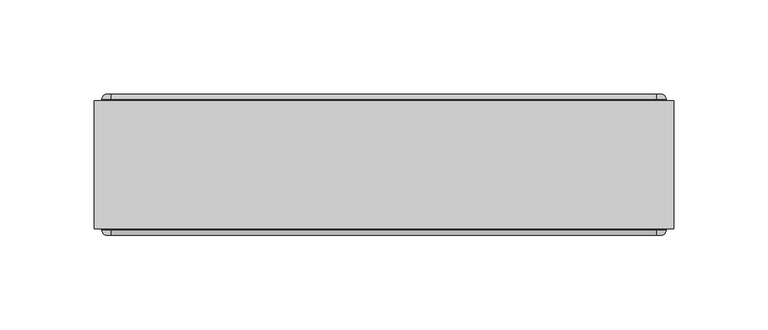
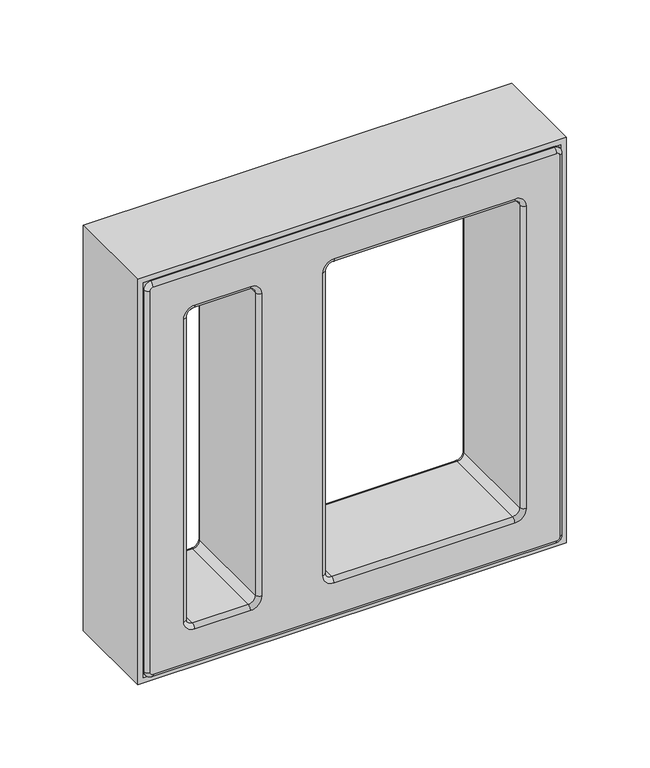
"""IFC4 building model written with IfcOpenShell, lengths in millimetres: proxy geometry, PORTOBELLO - ELEMENTO ASSIM CINZA 30X30 (COBOGO) : ASSIM CINZA."""

from ifc_helpers import new_model, si_unit, point, frame, origin, place, context, project, spatial, polyline, circle_curve, ellipse_curve, trimmed, outline, extrude, source, transform, mapped, element, save
from ifc_brep_helpers import plane_surface, cylinder_surface, revolved_surface, advanced_brep


def generic_models_a87dd402(model_context):
    return source(origin(), model_context, "Body", "SolidModel", [
        advanced_brep(
        [(145.0, 37.5, 7.0), (-145.0, 37.5, 7.0), (-147.0, 37.5, 9.0), (-147.0, 37.5, 299.0), (-145.0, 37.5, 301.0), (145.0, 37.5, 301.0), (147.0, 37.5, 299.0), (147.0, 37.5, 9.0), (-67.0, 37.5, 39.0), (-67.0, 37.5, 269.0), (-75.0, 37.5, 277.0), (-115.0, 37.5, 277.0), (-123.0, 37.5, 269.0), (-123.0, 37.5, 39.0), (-115.0, 37.5, 31.0), (-75.0, 37.5, 31.0), (123.0, 37.5, 39.0), (123.0, 37.5, 269.0), (115.0, 37.5, 277.0), (-15.0, 37.5, 277.0), (-23.0, 37.5, 269.0), (-23.0, 37.5, 39.0), (-15.0, 37.5, 31.0), (115.0, 37.5, 31.0), (147.0, -37.5, 9.0), (147.0, -37.5, 299.0), (145.0, -37.5, 301.0), (-145.0, -37.5, 301.0), (-147.0, -37.5, 299.0), (-147.0, -37.5, 9.0), (-145.0, -37.5, 7.0), (145.0, -37.5, 7.0), (-75.0, -37.5, 31.0), (-115.0, -37.5, 31.0), (-123.0, -37.5, 39.0), (-123.0, -37.5, 269.0), (-115.0, -37.5, 277.0), (-75.0, -37.5, 277.0), (-67.0, -37.5, 269.0), (-67.0, -37.5, 39.0), (115.0, -37.5, 31.0), (-15.0, -37.5, 31.0), (-23.0, -37.5, 39.0), (-23.0, -37.5, 269.0), (-15.0, -37.5, 277.0), (115.0, -37.5, 277.0), (123.0, -37.5, 269.0), (123.0, -37.5, 39.0), (145.0, 34.5, 4.0), (150.0, 34.5, 9.0), (150.0, -34.5, 9.0), (145.0, -34.5, 4.0), (150.0, 34.5, 299.0), (150.0, -34.5, 299.0), (145.0, 34.5, 304.0), (145.0, -34.5, 304.0), (-145.0, 34.5, 304.0), (-145.0, -34.5, 304.0), (-150.0, 34.5, 299.0), (-150.0, -34.5, 299.0), (-150.0, 34.5, 9.0), (-150.0, -34.5, 9.0), (-145.0, 34.5, 4.0), (-145.0, -34.5, 4.0), (120.0, 34.5, 269.0), (120.0, 34.5, 39.0), (120.0, -34.5, 39.0), (120.0, -34.5, 269.0), (115.0, 34.5, 34.0), (115.0, -34.5, 34.0), (-15.0, 34.5, 34.0), (-15.0, -34.5, 34.0), (-20.0, 34.5, 39.0), (-20.0, -34.5, 39.0), (-20.0, 34.5, 269.0), (-20.0, -34.5, 269.0), (-15.0, 34.5, 274.0), (-15.0, -34.5, 274.0), (115.0, 34.5, 274.0), (115.0, -34.5, 274.0), (-120.0, 34.5, 39.0), (-120.0, 34.5, 269.0), (-120.0, -34.5, 269.0), (-120.0, -34.5, 39.0), (-115.0, 34.5, 274.0), (-115.0, -34.5, 274.0), (-75.0, 34.5, 274.0), (-75.0, -34.5, 274.0), (-70.0, 34.5, 269.0), (-70.0, -34.5, 269.0), (-70.0, 34.5, 39.0), (-70.0, -34.5, 39.0), (-75.0, 34.5, 34.0), (-75.0, -34.5, 34.0), (-115.0, 34.5, 34.0), (-115.0, -34.5, 34.0)],
        [
            (0, 1),
            (1, 2, circle_curve(frame((-145.0, 37.5, 9.0), z_axis=(0.0, 1.0, 0.0), x_axis=(-1.0, 0.0, 0.0)), 2.0)),
            (2, 3),
            (3, 4, circle_curve(frame((-145.0, 37.5, 299.0), z_axis=(0.0, 1.0, 0.0), x_axis=(0.0, 0.0, 1.0)), 2.0)),
            (4, 5),
            (5, 6, circle_curve(frame((145.0, 37.5, 299.0), z_axis=(0.0, 1.0, 0.0), x_axis=(1.0, 0.0, 0.0)), 2.0)),
            (6, 7),
            (7, 0, circle_curve(frame((145.0, 37.5, 9.0), z_axis=(0.0, 1.0, 0.0), x_axis=(0.0, 0.0, -1.0)), 2.0)),
            (8, 9),
            (9, 10, circle_curve(frame((-75.0, 37.5, 269.0), z_axis=(0.0, -1.0, 0.0), x_axis=(0.0, 0.0, 1.0)), 8.0)),
            (10, 11),
            (11, 12, circle_curve(frame((-115.0, 37.5, 269.0), z_axis=(0.0, -1.0, 0.0), x_axis=(-1.0, 0.0, 0.0)), 8.0)),
            (12, 13),
            (13, 14, circle_curve(frame((-115.0, 37.5, 39.0), z_axis=(0.0, -1.0, 0.0), x_axis=(0.0, 0.0, -1.0)), 8.0)),
            (14, 15),
            (15, 8, circle_curve(frame((-75.0, 37.5, 39.0), z_axis=(0.0, -1.0, 0.0), x_axis=(1.0, 0.0, 0.0)), 8.0)),
            (16, 17),
            (17, 18, circle_curve(frame((115.0, 37.5, 269.0), z_axis=(0.0, -1.0, 0.0), x_axis=(0.0, 0.0, 1.0)), 8.0)),
            (18, 19),
            (19, 20, circle_curve(frame((-15.0, 37.5, 269.0), z_axis=(0.0, -1.0, 0.0), x_axis=(-1.0, 0.0, 0.0)), 8.0)),
            (20, 21),
            (21, 22, circle_curve(frame((-15.0, 37.5, 39.0), z_axis=(0.0, -1.0, 0.0), x_axis=(0.0, 0.0, -1.0)), 8.0)),
            (22, 23),
            (23, 16, circle_curve(frame((115.0, 37.5, 39.0), z_axis=(0.0, -1.0, 0.0), x_axis=(1.0, 0.0, 0.0)), 8.0)),
            (24, 25),
            (25, 26, circle_curve(frame((145.0, -37.5, 299.0), z_axis=(0.0, -1.0, 0.0), x_axis=(1.0, 0.0, 0.0)), 2.0)),
            (26, 27),
            (27, 28, circle_curve(frame((-145.0, -37.5, 299.0), z_axis=(0.0, -1.0, 0.0), x_axis=(0.0, 0.0, 1.0)), 2.0)),
            (28, 29),
            (29, 30, circle_curve(frame((-145.0, -37.5, 9.0), z_axis=(0.0, -1.0, 0.0), x_axis=(-1.0, 0.0, 0.0)), 2.0)),
            (30, 31),
            (31, 24, circle_curve(frame((145.0, -37.5, 9.0), z_axis=(0.0, -1.0, 0.0), x_axis=(0.0, 0.0, -1.0)), 2.0)),
            (32, 33),
            (33, 34, circle_curve(frame((-115.0, -37.5, 39.0), z_axis=(0.0, 1.0, 0.0), x_axis=(0.0, 0.0, -1.0)), 8.0)),
            (34, 35),
            (35, 36, circle_curve(frame((-115.0, -37.5, 269.0), z_axis=(0.0, 1.0, 0.0), x_axis=(-1.0, 0.0, 0.0)), 8.0)),
            (36, 37),
            (37, 38, circle_curve(frame((-75.0, -37.5, 269.0), z_axis=(0.0, 1.0, 0.0), x_axis=(0.0, 0.0, 1.0)), 8.0)),
            (38, 39),
            (39, 32, circle_curve(frame((-75.0, -37.5, 39.0), z_axis=(0.0, 1.0, 0.0), x_axis=(1.0, 0.0, 0.0)), 8.0)),
            (40, 41),
            (41, 42, circle_curve(frame((-15.0, -37.5, 39.0), z_axis=(0.0, 1.0, 0.0), x_axis=(0.0, 0.0, -1.0)), 8.0)),
            (42, 43),
            (43, 44, circle_curve(frame((-15.0, -37.5, 269.0), z_axis=(0.0, 1.0, 0.0), x_axis=(-1.0, 0.0, 0.0)), 8.0)),
            (44, 45),
            (45, 46, circle_curve(frame((115.0, -37.5, 269.0), z_axis=(0.0, 1.0, 0.0), x_axis=(0.0, 0.0, 1.0)), 8.0)),
            (46, 47),
            (47, 40, circle_curve(frame((115.0, -37.5, 39.0), z_axis=(0.0, 1.0, 0.0), x_axis=(1.0, 0.0, 0.0)), 8.0)),
            (48, 49, circle_curve(frame((145.0, 34.5, 9.0), z_axis=(0.0, -1.0, 0.0), x_axis=(-1.0, 0.0, 0.0)), 5.0)),
            (49, 50),
            (50, 51, circle_curve(frame((145.0, -34.5, 9.0), z_axis=(0.0, 1.0, 0.0), x_axis=(-1.0, 0.0, 0.0)), 5.0)),
            (51, 48),
            (49, 52),
            (52, 53),
            (53, 50),
            (52, 54, circle_curve(frame((145.0, 34.5, 299.0), z_axis=(0.0, -1.0, 0.0), x_axis=(-1.0, 0.0, 0.0)), 5.0)),
            (54, 55),
            (55, 53, circle_curve(frame((145.0, -34.5, 299.0), z_axis=(0.0, 1.0, 0.0), x_axis=(-1.0, 0.0, 0.0)), 5.0)),
            (54, 56),
            (56, 57),
            (57, 55),
            (56, 58, circle_curve(frame((-145.0, 34.5, 299.0), z_axis=(0.0, -1.0, 0.0), x_axis=(-1.0, 0.0, 0.0)), 5.0)),
            (58, 59),
            (59, 57, circle_curve(frame((-145.0, -34.5, 299.0), z_axis=(0.0, 1.0, 0.0), x_axis=(-1.0, 0.0, 0.0)), 5.0)),
            (58, 60),
            (60, 61),
            (61, 59),
            (60, 62, circle_curve(frame((-145.0, 34.5, 9.0), z_axis=(0.0, -1.0, 0.0), x_axis=(-1.0, 0.0, 0.0)), 5.0)),
            (62, 63),
            (63, 61, circle_curve(frame((-145.0, -34.5, 9.0), z_axis=(0.0, 1.0, 0.0), x_axis=(-1.0, 0.0, 0.0)), 5.0)),
            (51, 63),
            (62, 48),
            (64, 65),
            (65, 66),
            (66, 67),
            (67, 64),
            (65, 68, circle_curve(frame((115.0, 34.5, 39.0), z_axis=(0.0, 1.0, 0.0), x_axis=(-1.0, 0.0, 0.0)), 5.0)),
            (68, 69),
            (69, 66, circle_curve(frame((115.0, -34.5, 39.0), z_axis=(0.0, -1.0, 0.0), x_axis=(-1.0, 0.0, 0.0)), 5.0)),
            (68, 70),
            (70, 71),
            (71, 69),
            (70, 72, circle_curve(frame((-15.0, 34.5, 39.0), z_axis=(0.0, 1.0, 0.0), x_axis=(-1.0, 0.0, 0.0)), 5.0)),
            (72, 73),
            (73, 71, circle_curve(frame((-15.0, -34.5, 39.0), z_axis=(0.0, -1.0, 0.0), x_axis=(-1.0, 0.0, 0.0)), 5.0)),
            (72, 74),
            (74, 75),
            (75, 73),
            (74, 76, circle_curve(frame((-15.0, 34.5, 269.0), z_axis=(0.0, 1.0, 0.0), x_axis=(-1.0, 0.0, 0.0)), 5.0)),
            (76, 77),
            (77, 75, circle_curve(frame((-15.0, -34.5, 269.0), z_axis=(0.0, -1.0, 0.0), x_axis=(-1.0, 0.0, 0.0)), 5.0)),
            (76, 78),
            (78, 79),
            (79, 77),
            (67, 79, circle_curve(frame((115.0, -34.5, 269.0), z_axis=(0.0, -1.0, 0.0), x_axis=(-1.0, 0.0, 0.0)), 5.0)),
            (78, 64, circle_curve(frame((115.0, 34.5, 269.0), z_axis=(0.0, 1.0, 0.0), x_axis=(-1.0, 0.0, 0.0)), 5.0)),
            (80, 81),
            (81, 82),
            (82, 83),
            (83, 80),
            (81, 84, circle_curve(frame((-115.0, 34.5, 269.0), z_axis=(0.0, 1.0, 0.0), x_axis=(-1.0, 0.0, 0.0)), 5.0)),
            (84, 85),
            (85, 82, circle_curve(frame((-115.0, -34.5, 269.0), z_axis=(0.0, -1.0, 0.0), x_axis=(-1.0, 0.0, 0.0)), 5.0)),
            (84, 86),
            (86, 87),
            (87, 85),
            (86, 88, circle_curve(frame((-75.0, 34.5, 269.0), z_axis=(0.0, 1.0, 0.0), x_axis=(-1.0, 0.0, 0.0)), 5.0)),
            (88, 89),
            (89, 87, circle_curve(frame((-75.0, -34.5, 269.0), z_axis=(0.0, -1.0, 0.0), x_axis=(-1.0, 0.0, 0.0)), 5.0)),
            (88, 90),
            (90, 91),
            (91, 89),
            (90, 92, circle_curve(frame((-75.0, 34.5, 39.0), z_axis=(0.0, 1.0, 0.0), x_axis=(-1.0, 0.0, 0.0)), 5.0)),
            (92, 93),
            (93, 91, circle_curve(frame((-75.0, -34.5, 39.0), z_axis=(0.0, -1.0, 0.0), x_axis=(-1.0, 0.0, 0.0)), 5.0)),
            (92, 94),
            (94, 95),
            (95, 93),
            (83, 95, circle_curve(frame((-115.0, -34.5, 39.0), z_axis=(0.0, -1.0, 0.0), x_axis=(-1.0, 0.0, 0.0)), 5.0)),
            (94, 80, circle_curve(frame((-115.0, 34.5, 39.0), z_axis=(0.0, 1.0, 0.0), x_axis=(-1.0, 0.0, 0.0)), 5.0)),
            (48, 0, circle_curve(frame((145.0, 34.5, 7.0), z_axis=(1.0, 0.0, 0.0), x_axis=(0.0, 1.0, 0.0)), 3.0)),
            (7, 49, circle_curve(frame((147.0, 34.5, 9.0), z_axis=(0.0, 0.0, -1.0), x_axis=(0.0, 1.0, 0.0)), 3.0)),
            (6, 52, circle_curve(frame((147.0, 34.5, 299.0), z_axis=(0.0, 0.0, -1.0), x_axis=(0.0, 1.0, 0.0)), 3.0)),
            (5, 54, circle_curve(frame((145.0, 34.5, 301.0), z_axis=(1.0, 0.0, 0.0), x_axis=(0.0, 1.0, 0.0)), 3.0)),
            (4, 56, circle_curve(frame((-145.0, 34.5, 301.0), z_axis=(1.0, 0.0, 0.0), x_axis=(0.0, 1.0, 0.0)), 3.0)),
            (3, 58, circle_curve(frame((-147.0, 34.5, 299.0), z_axis=(0.0, 0.0, 1.0), x_axis=(0.0, 1.0, 0.0)), 3.0)),
            (2, 60, circle_curve(frame((-147.0, 34.5, 9.0), z_axis=(0.0, 0.0, 1.0), x_axis=(0.0, 1.0, 0.0)), 3.0)),
            (1, 62, circle_curve(frame((-145.0, 34.5, 7.0), z_axis=(-1.0, 0.0, 0.0), x_axis=(0.0, 1.0, 0.0)), 3.0)),
            (31, 51, circle_curve(frame((145.0, -34.5, 7.0), z_axis=(1.0, 0.0, 0.0), x_axis=(0.0, 1.0, 0.0)), 3.0)),
            (50, 24, circle_curve(frame((147.0, -34.5, 9.0), z_axis=(0.0, 0.0, -1.0), x_axis=(0.0, 1.0, 0.0)), 3.0)),
            (53, 25, circle_curve(frame((147.0, -34.5, 299.0), z_axis=(0.0, 0.0, -1.0), x_axis=(0.0, 1.0, 0.0)), 3.0)),
            (55, 26, circle_curve(frame((145.0, -34.5, 301.0), z_axis=(1.0, 0.0, 0.0), x_axis=(0.0, 1.0, 0.0)), 3.0)),
            (57, 27, circle_curve(frame((-145.0, -34.5, 301.0), z_axis=(1.0, 0.0, 0.0), x_axis=(0.0, 1.0, 0.0)), 3.0)),
            (59, 28, circle_curve(frame((-147.0, -34.5, 299.0), z_axis=(0.0, 0.0, 1.0), x_axis=(0.0, 1.0, 0.0)), 3.0)),
            (61, 29, circle_curve(frame((-147.0, -34.5, 9.0), z_axis=(0.0, 0.0, 1.0), x_axis=(0.0, 1.0, 0.0)), 3.0)),
            (63, 30, circle_curve(frame((-145.0, -34.5, 7.0), z_axis=(-1.0, 0.0, 0.0), x_axis=(0.0, 1.0, 0.0)), 3.0)),
            (90, 8, circle_curve(frame((-67.0, 34.5, 39.0), z_axis=(0.0, 0.0, -1.0), x_axis=(-1.0, 0.0, 0.0)), 3.0)),
            (15, 92, circle_curve(frame((-75.0, 34.5, 31.0), z_axis=(1.0, 0.0, 0.0), x_axis=(0.0, 0.0, 1.0)), 3.0)),
            (39, 91, circle_curve(frame((-67.0, -34.5, 39.0), z_axis=(0.0, 0.0, -1.0), x_axis=(-1.0, 0.0, 0.0)), 3.0)),
            (93, 32, circle_curve(frame((-75.0, -34.5, 31.0), z_axis=(1.0, 0.0, 0.0), x_axis=(0.0, 0.0, 1.0)), 3.0)),
            (14, 94, circle_curve(frame((-115.0, 34.5, 31.0), z_axis=(1.0, 0.0, 0.0), x_axis=(0.0, 0.0, 1.0)), 3.0)),
            (95, 33, circle_curve(frame((-115.0, -34.5, 31.0), z_axis=(1.0, 0.0, 0.0), x_axis=(0.0, 0.0, 1.0)), 3.0)),
            (13, 80, circle_curve(frame((-123.0, 34.5, 39.0), z_axis=(0.0, 0.0, -1.0), x_axis=(1.0, 0.0, 0.0)), 3.0)),
            (83, 34, circle_curve(frame((-123.0, -34.5, 39.0), z_axis=(0.0, 0.0, -1.0), x_axis=(1.0, 0.0, 0.0)), 3.0)),
            (12, 81, circle_curve(frame((-123.0, 34.5, 269.0), z_axis=(0.0, 0.0, -1.0), x_axis=(1.0, 0.0, 0.0)), 3.0)),
            (82, 35, circle_curve(frame((-123.0, -34.5, 269.0), z_axis=(0.0, 0.0, -1.0), x_axis=(1.0, 0.0, 0.0)), 3.0)),
            (11, 84, circle_curve(frame((-115.0, 34.5, 277.0), z_axis=(-1.0, 0.0, 0.0), x_axis=(0.0, 0.0, -1.0)), 3.0)),
            (85, 36, circle_curve(frame((-115.0, -34.5, 277.0), z_axis=(-1.0, 0.0, 0.0), x_axis=(0.0, 0.0, -1.0)), 3.0)),
            (10, 86, circle_curve(frame((-75.0, 34.5, 277.0), z_axis=(-1.0, 0.0, 0.0), x_axis=(0.0, 0.0, -1.0)), 3.0)),
            (87, 37, circle_curve(frame((-75.0, -34.5, 277.0), z_axis=(-1.0, 0.0, 0.0), x_axis=(0.0, 0.0, -1.0)), 3.0)),
            (9, 88, circle_curve(frame((-67.0, 34.5, 269.0), z_axis=(0.0, 0.0, 1.0), x_axis=(-1.0, 0.0, 0.0)), 3.0)),
            (89, 38, circle_curve(frame((-67.0, -34.5, 269.0), z_axis=(0.0, 0.0, 1.0), x_axis=(-1.0, 0.0, 0.0)), 3.0)),
            (65, 16, circle_curve(frame((123.0, 34.5, 39.0), z_axis=(0.0, 0.0, -1.0), x_axis=(-1.0, 0.0, 0.0)), 3.0)),
            (23, 68, circle_curve(frame((115.0, 34.5, 31.0), z_axis=(1.0, 0.0, 0.0), x_axis=(0.0, 0.0, 1.0)), 3.0)),
            (22, 70, circle_curve(frame((-15.0, 34.5, 31.0), z_axis=(1.0, 0.0, 0.0), x_axis=(0.0, 0.0, 1.0)), 3.0)),
            (21, 72, circle_curve(frame((-23.0, 34.5, 39.0), z_axis=(0.0, 0.0, -1.0), x_axis=(1.0, 0.0, 0.0)), 3.0)),
            (20, 74, circle_curve(frame((-23.0, 34.5, 269.0), z_axis=(0.0, 0.0, -1.0), x_axis=(1.0, 0.0, 0.0)), 3.0)),
            (19, 76, circle_curve(frame((-15.0, 34.5, 277.0), z_axis=(-1.0, 0.0, 0.0), x_axis=(0.0, 0.0, -1.0)), 3.0)),
            (18, 78, circle_curve(frame((115.0, 34.5, 277.0), z_axis=(-1.0, 0.0, 0.0), x_axis=(0.0, 0.0, -1.0)), 3.0)),
            (17, 64, circle_curve(frame((123.0, 34.5, 269.0), z_axis=(0.0, 0.0, 1.0), x_axis=(-1.0, 0.0, 0.0)), 3.0)),
            (47, 66, circle_curve(frame((123.0, -34.5, 39.0), z_axis=(0.0, 0.0, -1.0), x_axis=(-1.0, 0.0, 0.0)), 3.0)),
            (69, 40, circle_curve(frame((115.0, -34.5, 31.0), z_axis=(1.0, 0.0, 0.0), x_axis=(0.0, 0.0, 1.0)), 3.0)),
            (71, 41, circle_curve(frame((-15.0, -34.5, 31.0), z_axis=(1.0, 0.0, 0.0), x_axis=(0.0, 0.0, 1.0)), 3.0)),
            (73, 42, circle_curve(frame((-23.0, -34.5, 39.0), z_axis=(0.0, 0.0, -1.0), x_axis=(1.0, 0.0, 0.0)), 3.0)),
            (75, 43, circle_curve(frame((-23.0, -34.5, 269.0), z_axis=(0.0, 0.0, -1.0), x_axis=(1.0, 0.0, 0.0)), 3.0)),
            (77, 44, circle_curve(frame((-15.0, -34.5, 277.0), z_axis=(-1.0, 0.0, 0.0), x_axis=(0.0, 0.0, -1.0)), 3.0)),
            (79, 45, circle_curve(frame((115.0, -34.5, 277.0), z_axis=(-1.0, 0.0, 0.0), x_axis=(0.0, 0.0, -1.0)), 3.0)),
            (67, 46, circle_curve(frame((123.0, -34.5, 269.0), z_axis=(0.0, 0.0, 1.0), x_axis=(-1.0, 0.0, 0.0)), 3.0)),
        ],
        [
            plane_surface(frame((140.0, 37.5, 9.0), z_axis=(0.0, 1.0, 0.0), x_axis=(0.0, 0.0, -1.0))),
            plane_surface(frame((140.0, -37.5, 9.0), z_axis=(0.0, -1.0, 0.0), x_axis=(0.0, 0.0, 1.0))),
            cylinder_surface(frame((145.0, -37.5, 9.0), z_axis=(0.0, 1.0, 0.0), x_axis=(-1.0, 0.0, 0.0)), 5.0),
            plane_surface(frame((150.0, 37.5, 9.0), z_axis=(1.0, 0.0, 0.0), x_axis=(0.0, -1.0, 0.0))),
            cylinder_surface(frame((145.0, -37.5, 299.0), z_axis=(0.0, 1.0, 0.0), x_axis=(-1.0, 0.0, 0.0)), 5.0),
            plane_surface(frame((145.0, 37.5, 304.0), z_axis=(0.0, 0.0, 1.0), x_axis=(0.0, -1.0, 0.0))),
            cylinder_surface(frame((-145.0, -37.5, 299.0), z_axis=(0.0, 1.0, 0.0), x_axis=(-1.0, 0.0, 0.0)), 5.0),
            plane_surface(frame((-150.0, 37.5, 299.0), z_axis=(-1.0, 0.0, 0.0), x_axis=(0.0, -1.0, 0.0))),
            cylinder_surface(frame((-145.0, -37.5, 9.0), z_axis=(0.0, 1.0, 0.0), x_axis=(-1.0, 0.0, 0.0)), 5.0),
            plane_surface(frame((-145.0, 37.5, 4.0), z_axis=(0.0, 0.0, -1.0), x_axis=(0.0, -1.0, 0.0))),
            plane_surface(frame((120.0, 37.5, 269.0), z_axis=(-1.0, 0.0, 0.0), x_axis=(0.0, -1.0, 0.0))),
            revolved_surface(polyline([(110.0, -34.5, 39.0), (110.0, 34.5, 39.0)]), (115.0, 0.0, 39.0), (0.0, -1.0, 0.0)),
            plane_surface(frame((115.0, 37.5, 34.0), z_axis=(0.0, 0.0, 1.0), x_axis=(0.0, -1.0, 0.0))),
            revolved_surface(polyline([(-20.0, -34.5, 39.0), (-20.0, 34.5, 39.0)]), (-15.0, 0.0, 39.0), (0.0, -1.0, 0.0)),
            plane_surface(frame((-20.0, 37.5, 39.0), z_axis=(1.0, 0.0, 0.0), x_axis=(0.0, -1.0, 0.0))),
            revolved_surface(polyline([(-20.0, -34.5, 269.0), (-20.0, 34.5, 269.0)]), (-15.0, 0.0, 269.0), (0.0, -1.0, 0.0)),
            plane_surface(frame((-15.0, 37.5, 274.0), z_axis=(0.0, 0.0, -1.0), x_axis=(0.0, -1.0, 0.0))),
            revolved_surface(polyline([(110.0, -34.5, 269.0), (110.0, 34.5, 269.0)]), (115.0, 0.0, 269.0), (0.0, -1.0, 0.0)),
            plane_surface(frame((-120.0, 37.5, 39.0), z_axis=(1.0, 0.0, 0.0), x_axis=(0.0, -1.0, 0.0))),
            revolved_surface(polyline([(-120.0, -34.5, 269.0), (-120.0, 34.5, 269.0)]), (-115.0, 0.0, 269.0), (0.0, -1.0, 0.0)),
            plane_surface(frame((-115.0, 37.5, 274.0), z_axis=(0.0, 0.0, -1.0), x_axis=(0.0, -1.0, 0.0))),
            revolved_surface(polyline([(-80.0, -34.5, 269.0), (-80.0, 34.5, 269.0)]), (-75.0, 0.0, 269.0), (0.0, -1.0, 0.0)),
            plane_surface(frame((-70.0, 37.5, 269.0), z_axis=(-1.0, 0.0, 0.0), x_axis=(0.0, -1.0, 0.0))),
            revolved_surface(polyline([(-80.0, -34.5, 39.0), (-80.0, 34.5, 39.0)]), (-75.0, 0.0, 39.0), (0.0, -1.0, 0.0)),
            plane_surface(frame((-75.0, 37.5, 34.0), z_axis=(0.0, 0.0, 1.0), x_axis=(0.0, -1.0, 0.0))),
            revolved_surface(polyline([(-120.0, -34.5, 39.0), (-120.0, 34.5, 39.0)]), (-115.0, 0.0, 39.0), (0.0, -1.0, 0.0)),
            revolved_surface(trimmed(ellipse_curve(frame((145.0, 34.5, 7.0), z_axis=(1.0, 0.0, 0.0), x_axis=(0.0, 1.0, 0.0)), 3.0, 3.0), [point((145.0, 34.5, 4.0))], [point((145.0, 37.5, 7.0))], True, "CARTESIAN"), (145.0, 37.5, 9.0), (0.0, 1.0, 0.0)),
            cylinder_surface(frame((147.0, 34.5, 9.0), z_axis=(0.0, 0.0, 1.0), x_axis=(0.0, 1.0, 0.0)), 3.0),
            revolved_surface(trimmed(ellipse_curve(frame((147.0, 34.5, 299.0), z_axis=(0.0, 0.0, 1.0), x_axis=(0.0, 1.0, 0.0)), 3.0, 3.0), [point((150.0, 34.5, 299.0))], [point((147.0, 37.5, 299.0))], True, "CARTESIAN"), (145.0, 37.5, 299.0), (0.0, 1.0, 0.0)),
            cylinder_surface(frame((145.0, 34.5, 301.0), z_axis=(-1.0, 0.0, 0.0), x_axis=(0.0, 1.0, 0.0)), 3.0),
            revolved_surface(trimmed(ellipse_curve(frame((-145.0, 34.5, 301.0), z_axis=(-1.0, 0.0, 0.0), x_axis=(0.0, 1.0, 0.0)), 3.0, 3.0), [point((-145.0, 34.5, 304.0))], [point((-145.0, 37.5, 301.0))], True, "CARTESIAN"), (-145.0, 37.5, 299.0), (0.0, 1.0, 0.0)),
            cylinder_surface(frame((-147.0, 34.5, 299.0), z_axis=(0.0, 0.0, -1.0), x_axis=(0.0, 1.0, 0.0)), 3.0),
            revolved_surface(trimmed(ellipse_curve(frame((-147.0, 34.5, 9.0), z_axis=(0.0, 0.0, -1.0), x_axis=(0.0, 1.0, 0.0)), 3.0, 3.0), [point((-150.0, 34.5, 9.0))], [point((-147.0, 37.5, 9.0))], True, "CARTESIAN"), (-145.0, 37.5, 9.0), (0.0, 1.0, 0.0)),
            cylinder_surface(frame((-145.0, 34.5, 7.0), z_axis=(1.0, 0.0, 0.0), x_axis=(0.0, 1.0, 0.0)), 3.0),
            revolved_surface(trimmed(ellipse_curve(frame((145.0, -34.5, 7.0), z_axis=(1.0, 0.0, 0.0), x_axis=(0.0, 1.0, 0.0)), 3.0, 3.0), [point((145.0, -37.5, 7.0))], [point((145.0, -34.5, 4.0))], True, "CARTESIAN"), (145.0, 37.5, 9.0), (0.0, 1.0, 0.0)),
            cylinder_surface(frame((147.0, -34.5, 9.0), z_axis=(0.0, 0.0, 1.0), x_axis=(0.0, 1.0, 0.0)), 3.0),
            revolved_surface(trimmed(ellipse_curve(frame((147.0, -34.5, 299.0), z_axis=(0.0, 0.0, 1.0), x_axis=(0.0, 1.0, 0.0)), 3.0, 3.0), [point((147.0, -37.5, 299.0))], [point((150.0, -34.5, 299.0))], True, "CARTESIAN"), (145.0, 37.5, 299.0), (0.0, 1.0, 0.0)),
            cylinder_surface(frame((145.0, -34.5, 301.0), z_axis=(-1.0, 0.0, 0.0), x_axis=(0.0, 1.0, 0.0)), 3.0),
            revolved_surface(trimmed(ellipse_curve(frame((-145.0, -34.5, 301.0), z_axis=(-1.0, 0.0, 0.0), x_axis=(0.0, 1.0, 0.0)), 3.0, 3.0), [point((-145.0, -37.5, 301.0))], [point((-145.0, -34.5, 304.0))], True, "CARTESIAN"), (-145.0, 37.5, 299.0), (0.0, 1.0, 0.0)),
            cylinder_surface(frame((-147.0, -34.5, 299.0), z_axis=(0.0, 0.0, -1.0), x_axis=(0.0, 1.0, 0.0)), 3.0),
            revolved_surface(trimmed(ellipse_curve(frame((-147.0, -34.5, 9.0), z_axis=(0.0, 0.0, -1.0), x_axis=(0.0, 1.0, 0.0)), 3.0, 3.0), [point((-147.0, -37.5, 9.0))], [point((-150.0, -34.5, 9.0))], True, "CARTESIAN"), (-145.0, 37.5, 9.0), (0.0, 1.0, 0.0)),
            cylinder_surface(frame((-145.0, -34.5, 7.0), z_axis=(1.0, 0.0, 0.0), x_axis=(0.0, 1.0, 0.0)), 3.0),
            revolved_surface(trimmed(ellipse_curve(frame((-67.0, 34.5, 39.0), z_axis=(0.0, 0.0, -1.0), x_axis=(-1.0, 0.0, 0.0)), 3.0, 3.0), [point((-70.0, 34.5, 39.0))], [point((-67.0, 37.5, 39.0))], True, "CARTESIAN"), (-75.0, 37.5, 39.0), (0.0, -1.0, 0.0)),
            revolved_surface(trimmed(ellipse_curve(frame((-67.0, -34.5, 39.0), z_axis=(0.0, 0.0, -1.0), x_axis=(-1.0, 0.0, 0.0)), 3.0, 3.0), [point((-67.0, -37.5, 39.0))], [point((-70.0, -34.5, 39.0))], True, "CARTESIAN"), (-75.0, 37.5, 39.0), (0.0, -1.0, 0.0)),
            cylinder_surface(frame((-75.0, 34.5, 31.0), z_axis=(-1.0, 0.0, 0.0), x_axis=(0.0, 0.0, 1.0)), 3.0),
            cylinder_surface(frame((-75.0, -34.5, 31.0), z_axis=(-1.0, 0.0, 0.0), x_axis=(0.0, 0.0, 1.0)), 3.0),
            revolved_surface(trimmed(ellipse_curve(frame((-115.0, 34.5, 31.0), z_axis=(-1.0, 0.0, 0.0), x_axis=(0.0, 0.0, 1.0)), 3.0, 3.0), [point((-115.0, 34.5, 34.0))], [point((-115.0, 37.5, 31.0))], True, "CARTESIAN"), (-115.0, 37.5, 39.0), (0.0, -1.0, 0.0)),
            revolved_surface(trimmed(ellipse_curve(frame((-115.0, -34.5, 31.0), z_axis=(-1.0, 0.0, 0.0), x_axis=(0.0, 0.0, 1.0)), 3.0, 3.0), [point((-115.0, -37.5, 31.0))], [point((-115.0, -34.5, 34.0))], True, "CARTESIAN"), (-115.0, 37.5, 39.0), (0.0, -1.0, 0.0)),
            cylinder_surface(frame((-123.0, 34.5, 39.0), z_axis=(0.0, 0.0, 1.0), x_axis=(1.0, 0.0, 0.0)), 3.0),
            cylinder_surface(frame((-123.0, -34.5, 39.0), z_axis=(0.0, 0.0, 1.0), x_axis=(1.0, 0.0, 0.0)), 3.0),
            revolved_surface(trimmed(ellipse_curve(frame((-123.0, 34.5, 269.0), z_axis=(0.0, 0.0, 1.0), x_axis=(1.0, 0.0, 0.0)), 3.0, 3.0), [point((-120.0, 34.5, 269.0))], [point((-123.0, 37.5, 269.0))], True, "CARTESIAN"), (-115.0, 37.5, 269.0), (0.0, -1.0, 0.0)),
            revolved_surface(trimmed(ellipse_curve(frame((-123.0, -34.5, 269.0), z_axis=(0.0, 0.0, 1.0), x_axis=(1.0, 0.0, 0.0)), 3.0, 3.0), [point((-123.0, -37.5, 269.0))], [point((-120.0, -34.5, 269.0))], True, "CARTESIAN"), (-115.0, 37.5, 269.0), (0.0, -1.0, 0.0)),
            cylinder_surface(frame((-115.0, 34.5, 277.0), z_axis=(1.0, 0.0, 0.0), x_axis=(0.0, 0.0, -1.0)), 3.0),
            cylinder_surface(frame((-115.0, -34.5, 277.0), z_axis=(1.0, 0.0, 0.0), x_axis=(0.0, 0.0, -1.0)), 3.0),
            revolved_surface(trimmed(ellipse_curve(frame((-75.0, 34.5, 277.0), z_axis=(1.0, 0.0, 0.0), x_axis=(0.0, 0.0, -1.0)), 3.0, 3.0), [point((-75.0, 34.5, 274.0))], [point((-75.0, 37.5, 277.0))], True, "CARTESIAN"), (-75.0, 37.5, 269.0), (0.0, -1.0, 0.0)),
            revolved_surface(trimmed(ellipse_curve(frame((-75.0, -34.5, 277.0), z_axis=(1.0, 0.0, 0.0), x_axis=(0.0, 0.0, -1.0)), 3.0, 3.0), [point((-75.0, -37.5, 277.0))], [point((-75.0, -34.5, 274.0))], True, "CARTESIAN"), (-75.0, 37.5, 269.0), (0.0, -1.0, 0.0)),
            cylinder_surface(frame((-67.0, 34.5, 269.0), z_axis=(0.0, 0.0, -1.0), x_axis=(-1.0, 0.0, 0.0)), 3.0),
            cylinder_surface(frame((-67.0, -34.5, 269.0), z_axis=(0.0, 0.0, -1.0), x_axis=(-1.0, 0.0, 0.0)), 3.0),
            revolved_surface(trimmed(ellipse_curve(frame((123.0, 34.5, 39.0), z_axis=(0.0, 0.0, -1.0), x_axis=(-1.0, 0.0, 0.0)), 3.0, 3.0), [point((120.0, 34.5, 39.0))], [point((123.0, 37.5, 39.0))], True, "CARTESIAN"), (115.0, 37.5, 39.0), (0.0, -1.0, 0.0)),
            cylinder_surface(frame((115.0, 34.5, 31.0), z_axis=(-1.0, 0.0, 0.0), x_axis=(0.0, 0.0, 1.0)), 3.0),
            revolved_surface(trimmed(ellipse_curve(frame((-15.0, 34.5, 31.0), z_axis=(-1.0, 0.0, 0.0), x_axis=(0.0, 0.0, 1.0)), 3.0, 3.0), [point((-15.0, 34.5, 34.0))], [point((-15.0, 37.5, 31.0))], True, "CARTESIAN"), (-15.0, 37.5, 39.0), (0.0, -1.0, 0.0)),
            cylinder_surface(frame((-23.0, 34.5, 39.0), z_axis=(0.0, 0.0, 1.0), x_axis=(1.0, 0.0, 0.0)), 3.0),
            revolved_surface(trimmed(ellipse_curve(frame((-23.0, 34.5, 269.0), z_axis=(0.0, 0.0, 1.0), x_axis=(1.0, 0.0, 0.0)), 3.0, 3.0), [point((-20.0, 34.5, 269.0))], [point((-23.0, 37.5, 269.0))], True, "CARTESIAN"), (-15.0, 37.5, 269.0), (0.0, -1.0, 0.0)),
            cylinder_surface(frame((-15.0, 34.5, 277.0), z_axis=(1.0, 0.0, 0.0), x_axis=(0.0, 0.0, -1.0)), 3.0),
            revolved_surface(trimmed(ellipse_curve(frame((115.0, 34.5, 277.0), z_axis=(1.0, 0.0, 0.0), x_axis=(0.0, 0.0, -1.0)), 3.0, 3.0), [point((115.0, 34.5, 274.0))], [point((115.0, 37.5, 277.0))], True, "CARTESIAN"), (115.0, 37.5, 269.0), (0.0, -1.0, 0.0)),
            cylinder_surface(frame((123.0, 34.5, 269.0), z_axis=(0.0, 0.0, -1.0), x_axis=(-1.0, 0.0, 0.0)), 3.0),
            revolved_surface(trimmed(ellipse_curve(frame((123.0, -34.5, 39.0), z_axis=(0.0, 0.0, -1.0), x_axis=(-1.0, 0.0, 0.0)), 3.0, 3.0), [point((123.0, -37.5, 39.0))], [point((120.0, -34.5, 39.0))], True, "CARTESIAN"), (115.0, 37.5, 39.0), (0.0, -1.0, 0.0)),
            cylinder_surface(frame((115.0, -34.5, 31.0), z_axis=(-1.0, 0.0, 0.0), x_axis=(0.0, 0.0, 1.0)), 3.0),
            revolved_surface(trimmed(ellipse_curve(frame((-15.0, -34.5, 31.0), z_axis=(-1.0, 0.0, 0.0), x_axis=(0.0, 0.0, 1.0)), 3.0, 3.0), [point((-15.0, -37.5, 31.0))], [point((-15.0, -34.5, 34.0))], True, "CARTESIAN"), (-15.0, 37.5, 39.0), (0.0, -1.0, 0.0)),
            cylinder_surface(frame((-23.0, -34.5, 39.0), z_axis=(0.0, 0.0, 1.0), x_axis=(1.0, 0.0, 0.0)), 3.0),
            revolved_surface(trimmed(ellipse_curve(frame((-23.0, -34.5, 269.0), z_axis=(0.0, 0.0, 1.0), x_axis=(1.0, 0.0, 0.0)), 3.0, 3.0), [point((-23.0, -37.5, 269.0))], [point((-20.0, -34.5, 269.0))], True, "CARTESIAN"), (-15.0, 37.5, 269.0), (0.0, -1.0, 0.0)),
            cylinder_surface(frame((-15.0, -34.5, 277.0), z_axis=(1.0, 0.0, 0.0), x_axis=(0.0, 0.0, -1.0)), 3.0),
            revolved_surface(trimmed(ellipse_curve(frame((115.0, -34.5, 277.0), z_axis=(1.0, 0.0, 0.0), x_axis=(0.0, 0.0, -1.0)), 3.0, 3.0), [point((115.0, -37.5, 277.0))], [point((115.0, -34.5, 274.0))], True, "CARTESIAN"), (115.0, 37.5, 269.0), (0.0, -1.0, 0.0)),
            cylinder_surface(frame((123.0, -34.5, 269.0), z_axis=(0.0, 0.0, -1.0), x_axis=(-1.0, 0.0, 0.0)), 3.0),
        ],
        [
            (0, [[1, 2, 3, 4, 5, 6, 7, 8], [9, 10, 11, 12, 13, 14, 15, 16], [17, 18, 19, 20, 21, 22, 23, 24]]),
            (1, [[25, 26, 27, 28, 29, 30, 31, 32], [33, 34, 35, 36, 37, 38, 39, 40], [41, 42, 43, 44, 45, 46, 47, 48]]),
            (2, [[49, 50, 51, 52]]),
            (3, [[53, 54, 55, -50]]),
            (4, [[56, 57, 58, -54]]),
            (5, [[59, 60, 61, -57]]),
            (6, [[62, 63, 64, -60]]),
            (7, [[65, 66, 67, -63]]),
            (8, [[68, 69, 70, -66]]),
            (9, [[71, -69, 72, -52]]),
            (10, [[73, 74, 75, 76]]),
            (11, [[77, 78, 79, -74]]),
            (12, [[80, 81, 82, -78]]),
            (13, [[83, 84, 85, -81]]),
            (14, [[86, 87, 88, -84]]),
            (15, [[89, 90, 91, -87]]),
            (16, [[92, 93, 94, -90]]),
            (17, [[95, -93, 96, -76]]),
            (18, [[97, 98, 99, 100]]),
            (19, [[101, 102, 103, -98]]),
            (20, [[104, 105, 106, -102]]),
            (21, [[107, 108, 109, -105]]),
            (22, [[110, 111, 112, -108]]),
            (23, [[113, 114, 115, -111]]),
            (24, [[116, 117, 118, -114]]),
            (25, [[119, -117, 120, -100]]),
            (26, [[-49, 121, -8, 122]]),
            (27, [[-7, 123, -53, -122]]),
            (28, [[-6, 124, -56, -123]]),
            (29, [[-5, 125, -59, -124]]),
            (30, [[-4, 126, -62, -125]]),
            (31, [[-3, 127, -65, -126]]),
            (32, [[-2, 128, -68, -127]]),
            (33, [[-72, -128, -1, -121]]),
            (34, [[-32, 129, -51, 130]]),
            (35, [[-55, 131, -25, -130]]),
            (36, [[-58, 132, -26, -131]]),
            (37, [[-61, 133, -27, -132]]),
            (38, [[-64, 134, -28, -133]]),
            (39, [[-67, 135, -29, -134]]),
            (40, [[-70, 136, -30, -135]]),
            (41, [[-31, -136, -71, -129]]),
            (42, [[-113, 137, -16, 138]]),
            (43, [[-40, 139, -115, 140]]),
            (44, [[-15, 141, -116, -138]]),
            (45, [[-118, 142, -33, -140]]),
            (46, [[-14, 143, -120, -141]]),
            (47, [[-119, 144, -34, -142]]),
            (48, [[-13, 145, -97, -143]]),
            (49, [[-99, 146, -35, -144]]),
            (50, [[-12, 147, -101, -145]]),
            (51, [[-103, 148, -36, -146]]),
            (52, [[-11, 149, -104, -147]]),
            (53, [[-106, 150, -37, -148]]),
            (54, [[-10, 151, -107, -149]]),
            (55, [[-109, 152, -38, -150]]),
            (56, [[-110, -151, -9, -137]]),
            (57, [[-39, -152, -112, -139]]),
            (58, [[-77, 153, -24, 154]]),
            (59, [[-23, 155, -80, -154]]),
            (60, [[-22, 156, -83, -155]]),
            (61, [[-21, 157, -86, -156]]),
            (62, [[-20, 158, -89, -157]]),
            (63, [[-19, 159, -92, -158]]),
            (64, [[-18, 160, -96, -159]]),
            (65, [[-73, -160, -17, -153]]),
            (66, [[-48, 161, -79, 162]]),
            (67, [[-82, 163, -41, -162]]),
            (68, [[-85, 164, -42, -163]]),
            (69, [[-88, 165, -43, -164]]),
            (70, [[-91, 166, -44, -165]]),
            (71, [[-94, 167, -45, -166]]),
            (72, [[-95, 168, -46, -167]]),
            (73, [[-47, -168, -75, -161]]),
        ],
    ),
        extrude(outline(polyline([(308.0, -154.0), (0.0, -154.0), (0.0, 154.0), (308.0, 154.0), (308.0, -154.0)]), holes=[polyline([(4.0, -150.0), (304.0, -150.0), (304.0, 150.0), (4.0, 150.0), (4.0, -150.0)])]), frame((0.0, -34.0, 0.0), z_axis=(0.0, 1.0, 0.0), x_axis=(0.0, 0.0, 1.0)), (0.0, 0.0, 1.0), 68.0),
    ])


if __name__ == "__main__":
    model = new_model("IFC4")
    model_context = context("Model", 3, world=origin())
    ifc_project = project(units=[si_unit("LENGTHUNIT", "METRE", prefix="MILLI")], contexts=[model_context])
    site = spatial("IfcSite", under=ifc_project)
    building = spatial("IfcBuilding", under=site)
    placement = place(None, origin())
    generic_models_shape = generic_models_a87dd402(model_context)
    element("IfcBuildingElementProxy", 1, Name="PORTOBELLO - ELEMENTO ASSIM CINZA 30X30 (COBOGO) : ASSIM CINZA", ObjectType="PORTOBELLO - ELEMENTO ASSIM CINZA 30X30 (COBOGO) : ASSIM CINZA", at=placement, inside=building, context=model_context, shape_type="MappedRepresentation", body=[
        mapped(generic_models_shape, transform((0.0, 0.0, 0.0), x_axis=(1.0, 0.0, 0.0), y_axis=(0.0, 1.0, 0.0), z_axis=(0.0, 0.0, 1.0))),
    ])
    save(model, "model.ifc")
